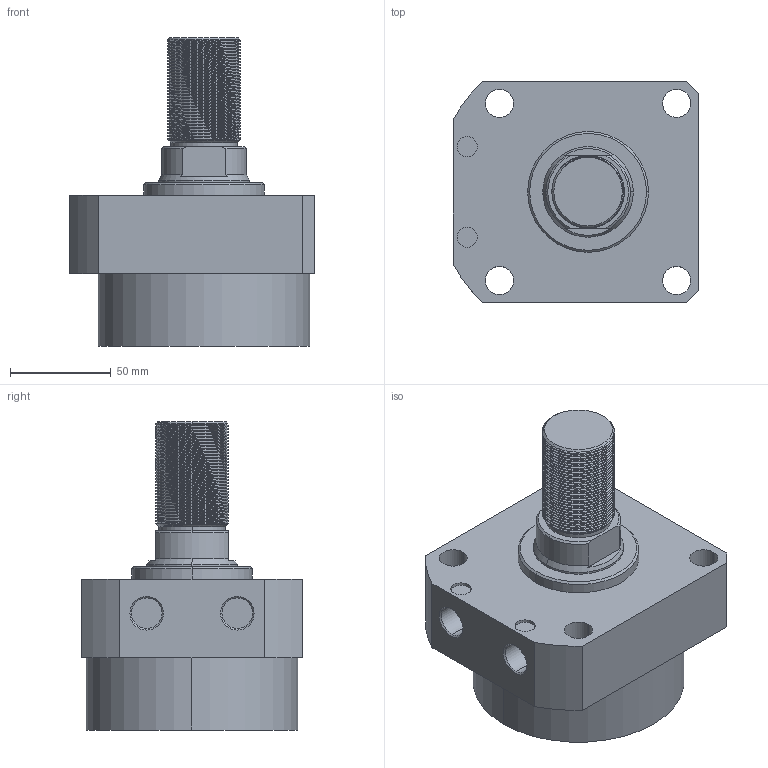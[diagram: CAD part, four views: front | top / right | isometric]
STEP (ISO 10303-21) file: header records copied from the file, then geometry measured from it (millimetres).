
FILE_DESCRIPTION (( 'STEP AP214' ), '1' );
FILE_NAME ('CLLR-105CT-(1-14).STEP', '2020-01-09T07:02:22', ( 'Windows' ), ( 'Microsoft' ), 'SwSTEP 2.0', 'SolidWorks 2015', '' );
FILE_SCHEMA (( 'AUTOMOTIVE_DESIGN' ));
Length unit declared in the file: millimetre
Products named in the file (1): CLLR-105CT-(1-14)
Bounding box: 122 x 110 x 153 mm (x, y, z)
Volume: 884815.9 mm3; surface area: 75926.9 mm2
Topology: 1 solids, 1 shells, 135 faces, 362 edges, 237 vertices
Faces by surface type: cylinder 97, plane 20, cone 16, bspline 2
Entity records: 7898 total; most frequent: CARTESIAN_POINT 4839, ORIENTED_EDGE 724, DIRECTION 556, EDGE_CURVE 362, VERTEX_POINT 237, AXIS2_PLACEMENT_3D 211, EDGE_LOOP 151, FACE_OUTER_BOUND 135
